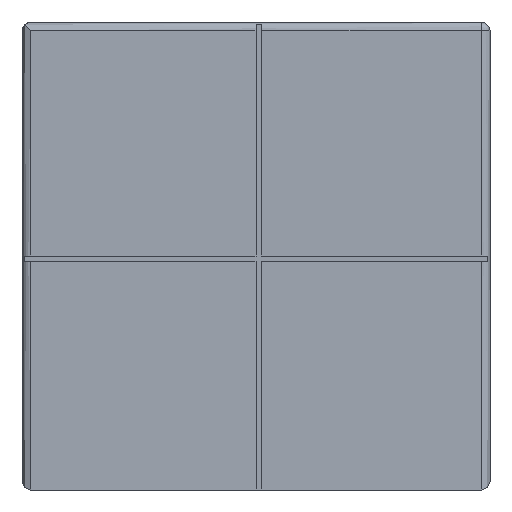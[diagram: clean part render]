
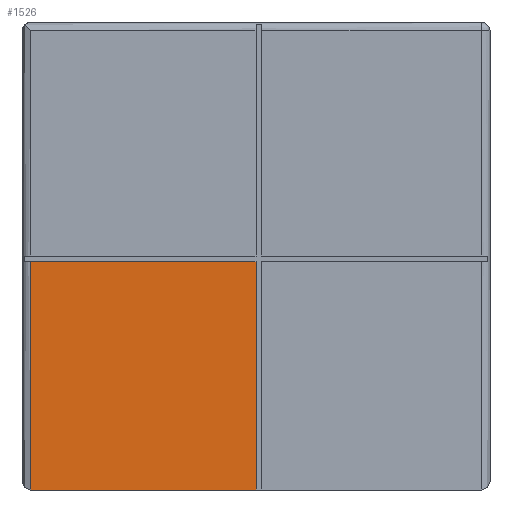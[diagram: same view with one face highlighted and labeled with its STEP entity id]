
A CAD part, front view. The second image highlights one B-rep face of the part: STEP entity #1526.
In plain terms, the highlighted planar face has unit normal (0, -1, 0).
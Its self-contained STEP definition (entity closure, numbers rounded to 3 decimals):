
#64 = EDGE_CURVE ( 'NONE', #415, #278, #1949, .T. ) ;
#95 = CARTESIAN_POINT ( 'NONE',  ( -3.85, -13., 3.9 ) ) ;
#171 = DIRECTION ( 'NONE',  ( 1., 0., 0. ) ) ;
#180 = EDGE_CURVE ( 'NONE', #2084, #278, #2228, .T. ) ;
#197 = DIRECTION ( 'NONE',  ( 0., 1., 0. ) ) ;
#248 = EDGE_LOOP ( 'NONE', ( #2179, #2082, #1711, #1178 ) ) ;
#278 = VERTEX_POINT ( 'NONE', #629 ) ;
#415 = VERTEX_POINT ( 'NONE', #1393 ) ;
#611 = DIRECTION ( 'NONE',  ( 0., 0., -1. ) ) ;
#629 = CARTESIAN_POINT ( 'NONE',  ( 0., -13., 0. ) ) ;
#665 = LINE ( 'NONE', #2142, #1080 ) ;
#1069 = CARTESIAN_POINT ( 'NONE',  ( -4., -13., 0. ) ) ;
#1072 = CARTESIAN_POINT ( 'NONE',  ( 0., -13., 3.9 ) ) ;
#1080 = VECTOR ( 'NONE', #171, 1000. ) ;
#1178 = ORIENTED_EDGE ( 'NONE', *, *, #180, .F. ) ;
#1242 = VERTEX_POINT ( 'NONE', #95 ) ;
#1271 = DIRECTION ( 'NONE',  ( 0., 0., 1. ) ) ;
#1393 = CARTESIAN_POINT ( 'NONE',  ( -3.85, -13., 0. ) ) ;
#1402 = VECTOR ( 'NONE', #1951, 1000. ) ;
#1484 = FACE_OUTER_BOUND ( 'NONE', #248, .T. ) ;
#1526 = ADVANCED_FACE ( 'NONE', ( #1484 ), #1985, .F. ) ;
#1593 = VECTOR ( 'NONE', #611, 1000. ) ;
#1617 = CARTESIAN_POINT ( 'NONE',  ( -3.85, -13., 1.95 ) ) ;
#1647 = CARTESIAN_POINT ( 'NONE',  ( -4., -13., 5.5 ) ) ;
#1681 = LINE ( 'NONE', #1617, #1402 ) ;
#1682 = CARTESIAN_POINT ( 'NONE',  ( 0., -13., 0. ) ) ;
#1711 = ORIENTED_EDGE ( 'NONE', *, *, #64, .T. ) ;
#1798 = AXIS2_PLACEMENT_3D ( 'NONE', #1647, #197, #1271 ) ;
#1949 = LINE ( 'NONE', #1069, #2001 ) ;
#1950 = EDGE_CURVE ( 'NONE', #1242, #2084, #665, .T. ) ;
#1951 = DIRECTION ( 'NONE',  ( 0., 0., -1. ) ) ;
#1971 = EDGE_CURVE ( 'NONE', #1242, #415, #1681, .T. ) ;
#1985 = PLANE ( 'NONE',  #1798 ) ;
#2001 = VECTOR ( 'NONE', #2184, 1000. ) ;
#2082 = ORIENTED_EDGE ( 'NONE', *, *, #1971, .T. ) ;
#2084 = VERTEX_POINT ( 'NONE', #1072 ) ;
#2142 = CARTESIAN_POINT ( 'NONE',  ( -4., -13., 3.9 ) ) ;
#2179 = ORIENTED_EDGE ( 'NONE', *, *, #1950, .F. ) ;
#2184 = DIRECTION ( 'NONE',  ( 1., 0., 0. ) ) ;
#2228 = LINE ( 'NONE', #1682, #1593 ) ;
